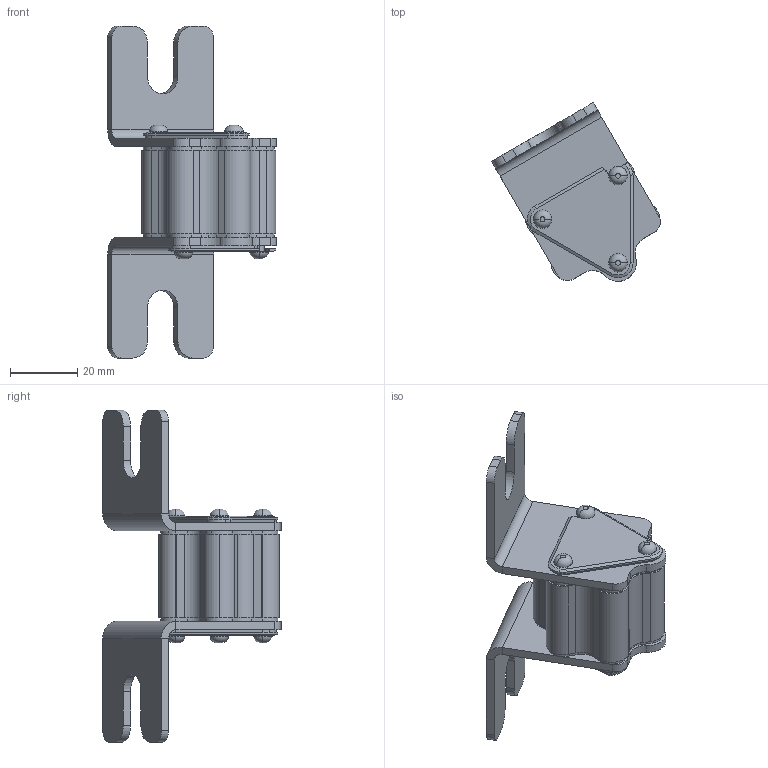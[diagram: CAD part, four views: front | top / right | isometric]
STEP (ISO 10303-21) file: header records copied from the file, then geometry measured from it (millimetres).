
FILE_DESCRIPTION (( 'STEP AP214' ), '1' );
FILE_NAME ('砎槼隰譇膻蠈錪 珫57-34270-XXXA-XXXX-忡曖.STEP', '2023-05-11T11:27:43', ( '' ), ( '' ), 'SwSTEP 2.0', 'SolidWorks 2018', '' );
FILE_SCHEMA (( 'AUTOMOTIVE_DESIGN' ));
Length unit declared in the file: millimetre
Products named in the file (1): 砎槼隰譇膻蠈錪 珫57-34270-XXXA-XXXX-忡曖
Bounding box: 50.28 x 53.22 x 99 mm (x, y, z)
Volume: 39672.2 mm3; surface area: 17843.4 mm2
Topology: 1 solids, 13 shells, 554 faces, 1451 edges, 921 vertices
Faces by surface type: cylinder 274, plane 210, cone 40, bspline 18, torus 12
Entity records: 32440 total; most frequent: CARTESIAN_POINT 13219, ORIENTED_EDGE 2878, DIRECTION 2664, EDGE_CURVE 1439, AXIS2_PLACEMENT_3D 982, VERTEX_POINT 921, VECTOR 700, LINE 700
